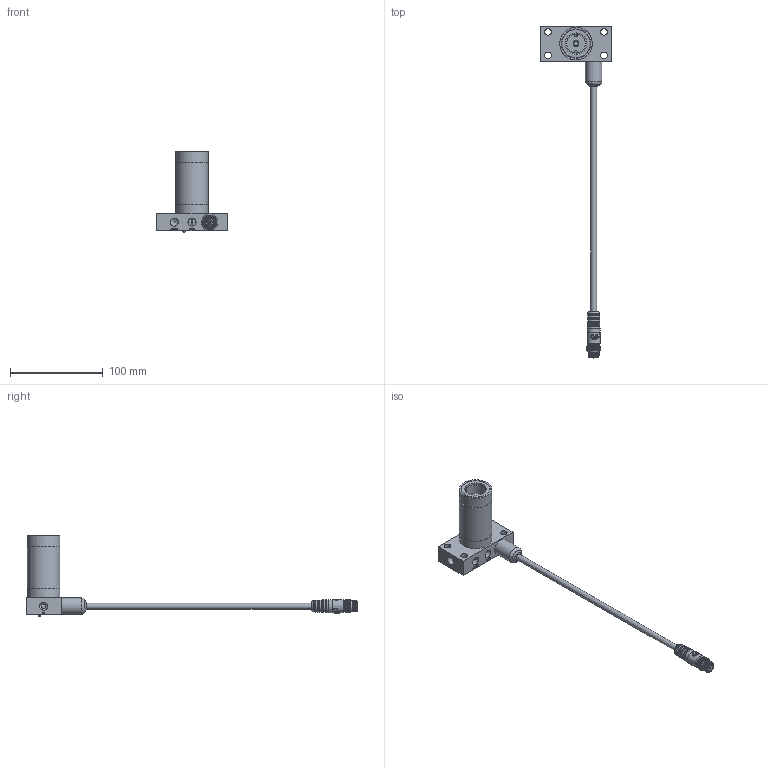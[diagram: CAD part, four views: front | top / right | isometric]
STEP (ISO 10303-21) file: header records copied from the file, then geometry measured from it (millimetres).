
FILE_DESCRIPTION(/* description */ ('ASSY,BODY,VF,IA,SXAR3,NHP_0002707618'),/* implementation_level */ '2;1');
FILE_NAME(/* name */ 'X:\ASSY,BODY,VF,IA,SXAR3,NHP_0002707618.stp',/* time_stamp */ '2021-07-07T14:01:49-04:00',/* author */ ('Simon.Britton'),/* organization */ (''),/* preprocessor_version */ 'ST-DEVELOPER v17',/* originating_system */ 'Autodesk Inventor 2019',/* authorisation */ '');
FILE_SCHEMA (('AUTOMOTIVE_DESIGN { 1 0 10303 214 3 1 1 }'));
Length unit declared in the file: millimetre
Products named in the file (1): ASSY,BODY,VF,IA,SXAR3,NHP
Bounding box: 76.2 x 358.21 x 87.37 mm (x, y, z)
Volume: 104344.7 mm3; surface area: 81411.2 mm2
Topology: 22 solids, 27 shells, 4035 faces, 9712 edges, 5837 vertices
Faces by surface type: bspline 2480, plane 746, cylinder 674, cone 101, torus 23, sphere 11
Full cylindrical faces by diameter (mm): 1 x5, 1.05 x5, 1.25 x10, 1.3 x5, 1.35 x5, 1.6 x10, 1.8 x5, 1.85 x5, 2 x1, 2.464 x2, 2.7 x1, 2.997 x4, 3 x1, 3.2 x1, 4.366 x1, 4.763 x10, 4.775 x1, 4.826 x3, 5.7 x1, 6.35 x3, 6.4 x1, 6.477 x3, 6.5 x1, 7 x1, 7.144 x4, 7.8 x1, 8.731 x8, 8.738 x1, 9.4 x2, 9.509 x1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
Entity records: 258630 total; most frequent: CARTESIAN_POINT 171100, ORIENTED_EDGE 19362, DIRECTION 14111, EDGE_CURVE 9681, AXIS2_PLACEMENT_3D 5986, VERTEX_POINT 5837, CIRCLE 4365, EDGE_LOOP 4245
